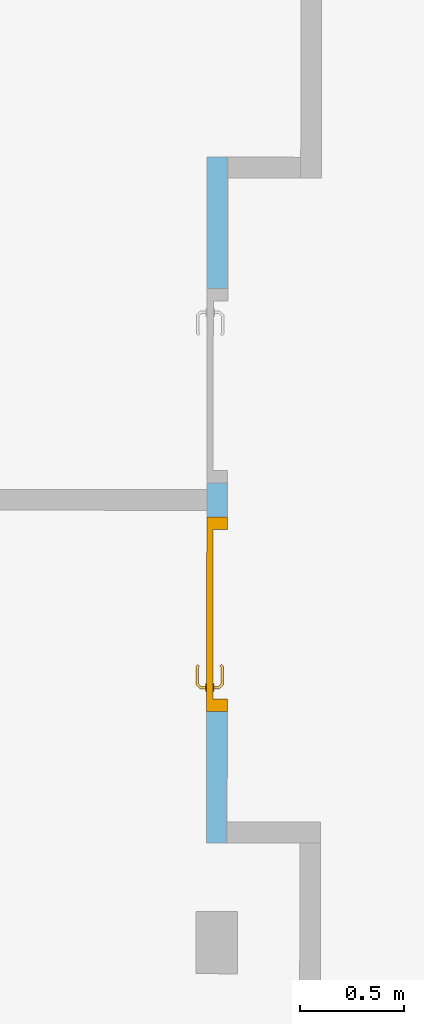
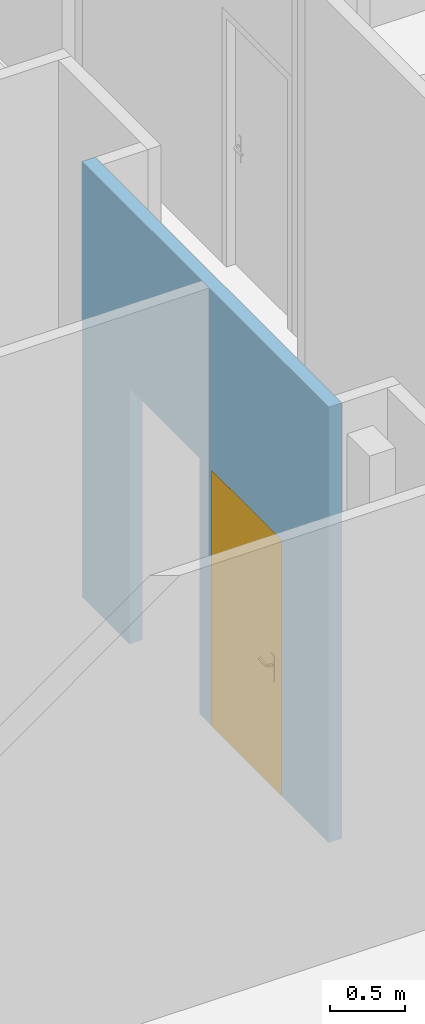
# One storey, part 84 of 101: 1 door, 2 openings, plus 1 element that does not belong to this part.
"""IFC2X3 building model written with IfcOpenShell, lengths in metres."""

import ifcopenshell
import ifcopenshell.guid

model = None  # the IFC model being written
_history = None  # IfcOwnerHistory: only IFC2X3 demands one
_inside = {}  # id of a spatial element -> (the spatial element, [elements in it])
_under = {}  # id of a project, library or spatial element -> (it, [spatial elements below it])
_declared = {}  # id of a project -> (the project, [libraries it declares])
_typed = {}  # id of a type object -> (the type object, [elements of that type])
_made_of = {}  # id of a material, layer set ... -> (it, [elements and type objects made of it])


def new_model(schema):
    """Start an empty IFC model of exactly this schema.

    Asked for "IFC4X3", IfcOpenShell would pick the latest addendum, in which some entities
    have other attributes; the version numbers below select the first issue.
    IFC2X3 requires an IfcOwnerHistory on every rooted entity: one is made here for all.
    """
    global model, _history
    if schema == "IFC4X3":
        model = ifcopenshell.file(schema_version=(4, 3, 0, 0))
    else:
        model = ifcopenshell.file(schema=schema)
    _inside.clear()
    _under.clear()
    _declared.clear()
    _typed.clear()
    _made_of.clear()
    _history = None
    if model.schema == "IFC2X3":
        org = make("IfcOrganization", Name="unknown")
        user = make(
            "IfcPersonAndOrganization",
            ThePerson=make("IfcPerson", FamilyName="unknown"),
            TheOrganization=org,
        )
        app = make(
            "IfcApplication",
            ApplicationDeveloper=org,
            Version="unknown",
            ApplicationFullName="unknown",
            ApplicationIdentifier="unknown",
        )
        _history = make(
            "IfcOwnerHistory",
            OwningUser=user,
            OwningApplication=app,
            ChangeAction="ADDED",
            CreationDate=0,
        )
    return model


def make(cls, **values):
    """One entity of the class cls with the attributes given. An attribute that is None is left unset."""
    return model.create_entity(
        cls, **{name: value for name, value in values.items() if value is not None}
    )


def entity(cls, *values):
    """Any entity or typed value of the class cls, its attributes in the order of the schema. None: left unset."""
    e = model.create_entity(cls)
    for i, value in enumerate(values):
        if value is not None:
            e[i] = value
    return e


def rooted(cls, **values):
    """An entity with a GlobalId (a new one), such as an element, a storey or a relation."""
    return make(cls, GlobalId=ifcopenshell.guid.new(), OwnerHistory=_history, **values)


def si_unit(unit_type, name, prefix=None):
    """IfcSIUnit, for example si_unit("LENGTHUNIT", "METRE", prefix="MILLI")."""
    return make("IfcSIUnit", UnitType=unit_type, Prefix=prefix, Name=name)


def converted_unit(unit_type, name, factor, base, dimensions=None, offset=None):
    """IfcConversionBasedUnit, such as the inch: factor (a typed value) times the base unit."""
    return make(
        "IfcConversionBasedUnit"
        if offset is None
        else "IfcConversionBasedUnitWithOffset",
        ConversionOffset=offset,
        Dimensions=None
        if dimensions is None
        else entity("IfcDimensionalExponents", *dimensions),
        UnitType=unit_type,
        Name=name,
        ConversionFactor=make(
            "IfcMeasureWithUnit", ValueComponent=factor, UnitComponent=base
        ),
    )


def derived_unit(unit_type, elements):
    """IfcDerivedUnit: a product of units, each with its exponent."""
    return make(
        "IfcDerivedUnit",
        Elements=[
            make("IfcDerivedUnitElement", Unit=unit, Exponent=power)
            for unit, power in elements
        ],
        UnitType=unit_type,
    )


def assignment(units):
    """IfcUnitAssignment: the units of a project."""
    return None if units is None else make("IfcUnitAssignment", Units=units)


def point(xyz):
    """IfcCartesianPoint."""
    return None if xyz is None else make("IfcCartesianPoint", Coordinates=xyz)


def direction(xyz):
    """IfcDirection."""
    return None if xyz is None else make("IfcDirection", DirectionRatios=xyz)


def frame(location, z_axis=None, x_axis=None):
    """IfcAxis2Placement3D, a coordinate frame: its origin and axes. An axis left out is left unset."""
    return make(
        "IfcAxis2Placement3D",
        Location=point(location),
        Axis=direction(z_axis),
        RefDirection=direction(x_axis),
    )


def frame_2d(location, x_axis=None):
    """IfcAxis2Placement2D, a coordinate frame in the plane: its origin and x axis."""
    return make(
        "IfcAxis2Placement2D", Location=point(location), RefDirection=direction(x_axis)
    )


def origin():
    """The frame at (0, 0, 0) with its axes left unset."""
    return frame((0.0, 0.0, 0.0))


def place(relative_to, where):
    """IfcLocalPlacement: puts the frame where relative to a parent placement (None: the world)."""
    return make(
        "IfcLocalPlacement", PlacementRelTo=relative_to, RelativePlacement=where
    )


def context(
    kind, dimensions, precision=None, world=None, true_north=None, identifier=None
):
    """IfcGeometricRepresentationContext, for example the 3D "Model" context."""
    return make(
        "IfcGeometricRepresentationContext",
        ContextIdentifier=identifier,
        ContextType=kind,
        CoordinateSpaceDimension=dimensions,
        Precision=precision,
        WorldCoordinateSystem=world,
        TrueNorth=true_north,
    )


def subcontext(parent, identifier, kind, view, scale=None):
    """IfcGeometricRepresentationSubContext, for example "Body" below "Model"."""
    return make(
        "IfcGeometricRepresentationSubContext",
        ContextIdentifier=identifier,
        ContextType=kind,
        ParentContext=parent,
        TargetScale=scale,
        TargetView=view,
    )


def project(units=None, contexts=None):
    """IfcProject with its units and contexts."""
    return rooted(
        "IfcProject",
        Name="project",
        RepresentationContexts=contexts,
        UnitsInContext=assignment(units),
    )


def spatial(cls, under=None, at=None, **own):
    """A site, building, storey or space (cls), placed at a placement, below another one or the project."""
    s = rooted(cls, ObjectPlacement=at, **own)
    if under is not None:
        _under.setdefault(under.id(), (under, []))[1].append(s)
    return s


def profile(cls, at=None, kind="AREA", **sizes):
    """A parametric profile (cls). Its sizes go by their IFC names, for example OverallWidth=200.0."""
    return make(cls, ProfileType=kind, Position=at, **sizes)


def rectangle(**sizes):
    """IfcRectangleProfileDef."""
    return profile("IfcRectangleProfileDef", **sizes)


def extrude(swept, where, along, depth):
    """IfcExtrudedAreaSolid: the profile swept, set in the frame where, extruded along a direction by depth."""
    return make(
        "IfcExtrudedAreaSolid",
        SweptArea=swept,
        Position=where,
        ExtrudedDirection=direction(along),
        Depth=depth,
    )


def faces_of(points, faces, orient=None, outer=None):
    """IfcFace entities. A face is a list of loops; a loop is a list of indices into points, from 0.

    orient and outer hold one flag for each loop. By default every Orientation is true, the
    first loop of a face is its IfcFaceOuterBound and the others are IfcFaceBound.
    """
    made = []
    for i, loops in enumerate(faces):
        bounds = []
        for j, loop in enumerate(loops):
            is_outer = j == 0 if outer is None else outer[i][j]
            bounds.append(
                make(
                    "IfcFaceOuterBound" if is_outer else "IfcFaceBound",
                    Bound=make("IfcPolyLoop", Polygon=[points[k] for k in loop]),
                    Orientation=True if orient is None else orient[i][j],
                )
            )
        made.append(make("IfcFace", Bounds=bounds))
    return made


def faceted_brep(points, faces, orient=None, outer=None, voids=None):
    """IfcFacetedBrep: a solid bounded by flat faces; with voids (closed shells), ...WithVoids."""
    shared = [point(p) for p in points]
    hull = make("IfcClosedShell", CfsFaces=faces_of(shared, faces, orient, outer))
    if voids is None:
        return make("IfcFacetedBrep", Outer=hull)
    return make(
        "IfcFacetedBrepWithVoids",
        Outer=hull,
        Voids=[
            make(cls, CfsFaces=faces_of(shared, fs, o, b)) for cls, fs, o, b in voids
        ],
    )


def shape(context_of_items, identifier, shape_type, items):
    """IfcShapeRepresentation: the items that make up one representation, for example the "Body"."""
    return make(
        "IfcShapeRepresentation",
        ContextOfItems=context_of_items,
        RepresentationIdentifier=identifier,
        RepresentationType=shape_type,
        Items=items,
    )


def source(mapping_origin, context_of_items, identifier, shape_type, items):
    """IfcRepresentationMap: a shape defined once, which mapped items show again and again."""
    return make(
        "IfcRepresentationMap",
        MappingOrigin=mapping_origin,
        MappedRepresentation=shape(context_of_items, identifier, shape_type, items),
    )


def transform(
    local_origin,
    x_axis=None,
    y_axis=None,
    z_axis=None,
    scale=None,
    scale2=None,
    scale3=None,
    uniform=True,
):
    """IfcCartesianTransformationOperator3D, or its non-uniform kind. x_axis, y_axis, z_axis: its Axis1, 2, 3."""
    if uniform:
        return make(
            "IfcCartesianTransformationOperator3D",
            Axis1=direction(x_axis),
            Axis2=direction(y_axis),
            LocalOrigin=point(local_origin),
            Scale=scale,
            Axis3=direction(z_axis),
        )
    return make(
        "IfcCartesianTransformationOperator3DnonUniform",
        Axis1=direction(x_axis),
        Axis2=direction(y_axis),
        LocalOrigin=point(local_origin),
        Scale=scale,
        Axis3=direction(z_axis),
        Scale2=scale2,
        Scale3=scale3,
    )


def mapped(mapping_source, mapping_target):
    """IfcMappedItem: shows the shape of a source again, moved by a transform."""
    return make(
        "IfcMappedItem", MappingSource=mapping_source, MappingTarget=mapping_target
    )


def material(Name=None, Category=None):
    """IfcMaterial."""
    return make("IfcMaterial", Name=Name, Category=Category)


def material_list(materials):
    """IfcMaterialList."""
    return make("IfcMaterialList", Materials=materials)


def layer(
    of_material, thickness, ventilated=None, Name=None, Category=None, Priority=None
):
    """IfcMaterialLayer: one layer of a wall or slab, of a material (None: an air gap)."""
    return make(
        "IfcMaterialLayer",
        Material=of_material,
        LayerThickness=thickness,
        IsVentilated=ventilated,
        Name=Name,
        Category=Category,
        Priority=Priority,
    )


def layer_set(layers, Name=None):
    """IfcMaterialLayerSet."""
    return make("IfcMaterialLayerSet", MaterialLayers=layers, LayerSetName=Name)


def layer_usage(for_layer_set, set_direction, sense, offset, extent=None):
    """IfcMaterialLayerSetUsage: how a layer set lies in its element."""
    return make(
        "IfcMaterialLayerSetUsage",
        ForLayerSet=for_layer_set,
        LayerSetDirection=set_direction,
        DirectionSense=sense,
        OffsetFromReferenceLine=offset,
        ReferenceExtent=extent,
    )


def made_of(thing, what):
    """Note that an element or type object is made of a material, layer set ...; save() writes the relation."""
    if what is not None:
        _made_of.setdefault(what.id(), (what, []))[1].append(thing)
    return thing


def type_object(cls, material=None, **own):
    """A type object (cls), such as IfcWallType, which elements share."""
    return made_of(rooted(cls, **own), material)


def type_shapes(of_type, sources):
    """Give a type object the sources (RepresentationMaps) that its elements show as mapped items."""
    of_type.RepresentationMaps = sources


def element(
    cls,
    number,
    at=None,
    inside=None,
    cuts=None,
    type_object=None,
    material=None,
    context=None,
    identifier="Body",
    shape_type=None,
    held_by="IfcProductDefinitionShape",
    body=None,
    shapes=None,
    **own,
):
    """One element of the class cls, such as IfcWall. Its Tag is "e" and its number.

    at: its placement. inside: the storey or other place that contains it. cuts: it is an
    opening in that element (IfcRelVoidsElement). A single representation is given by context,
    identifier, shape_type and body (its items); several are given by shapes. held_by: the class
    of the entity that holds the representations. save() writes the other relations.
    """
    e = rooted(cls, Tag="e%d" % number, ObjectPlacement=at, **own)
    if body is not None:
        shapes = [shape(context, identifier, shape_type, body)]
    if shapes is not None:
        e.Representation = make(held_by, Representations=shapes)
    if inside is not None:
        _inside.setdefault(inside.id(), (inside, []))[1].append(e)
    if cuts is not None:
        rooted(
            "IfcRelVoidsElement", RelatingBuildingElement=cuts, RelatedOpeningElement=e
        )
    if type_object is not None:
        _typed.setdefault(type_object.id(), (type_object, []))[1].append(e)
    return made_of(e, material)


def fill(opening, filler):
    """IfcRelFillsElement: the door or window that sits in an opening."""
    return rooted(
        "IfcRelFillsElement",
        RelatingOpeningElement=opening,
        RelatedBuildingElement=filler,
    )


def aggregate(whole, parts):
    """IfcRelAggregates: a whole, such as a stair, and the parts it consists of."""
    return rooted("IfcRelAggregates", RelatingObject=whole, RelatedObjects=parts)


def save(model, path):
    """Write the relations noted so far, then the file.

    IfcRelAggregates (storeys below a building ...), IfcRelContainedInSpatialStructure (elements
    in a storey), IfcRelDefinesByType, IfcRelAssociatesMaterial and IfcRelDeclares: one each for
    every whole, place, type object, material and project.
    """
    for whole, parts in _under.values():
        aggregate(whole, parts)
    for where, things in _inside.values():
        rooted(
            "IfcRelContainedInSpatialStructure",
            RelatedElements=things,
            RelatingStructure=where,
        )
    for kind, things in _typed.values():
        rooted("IfcRelDefinesByType", RelatedObjects=things, RelatingType=kind)
    for what, things in _made_of.values():
        rooted("IfcRelAssociatesMaterial", RelatedObjects=things, RelatingMaterial=what)
    for by, libraries in _declared.values():
        rooted("IfcRelDeclares", RelatingContext=by, RelatedDefinitions=libraries)
    model.write(path)


model = new_model("IFC2X3")

# Units and contexts
model_context = context("Model", 3, precision=1e-05, world=origin(), true_north=direction((6.123233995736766e-17, 1.0)))
body_context = subcontext(model_context, "Body", "Model", "MODEL_VIEW")
ifc_project = project(units=[si_unit("LENGTHUNIT", "METRE"), si_unit("AREAUNIT", "SQUARE_METRE"), converted_unit("PLANEANGLEUNIT", "DEGREE", entity("IfcPlaneAngleMeasure", 0.017453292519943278), si_unit("PLANEANGLEUNIT", "RADIAN"), dimensions=[0, 0, 0, 0, 0, 0, 0]), derived_unit("THERMALTRANSMITTANCEUNIT", [(si_unit("MASSUNIT", "GRAM", prefix="KILO"), 1), (si_unit("THERMODYNAMICTEMPERATUREUNIT", "KELVIN"), -1), (si_unit("TIMEUNIT", "SECOND"), -3)])], contexts=[model_context])

# Site, building, storey
site_placement = place(None, frame((1253.6752467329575, 2072.143113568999, 91.49999999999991), z_axis=(0.0, 0.0, 1.0), x_axis=(0.7237211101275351, 0.6900925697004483, 0.0)))
site = spatial("IfcSite", under=ifc_project, at=site_placement, Name="Surface", CompositionType="ELEMENT")
building_placement = place(site_placement, origin())
building = spatial("IfcBuilding", under=site, at=building_placement, CompositionType="ELEMENT")
storey_placement = place(building_placement, origin())
storey = spatial("IfcBuildingStorey", under=building, at=storey_placement, Name="0- Rdc", CompositionType="ELEMENT", Elevation=-5.764692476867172e-13)

# Wall, openings, door
ifc_material_1 = material(Name="OMD_Béton blanc")
ifc_layer = layer(ifc_material_1, 0.1)
ifc_layer_set = layer_set([ifc_layer], Name="Mur de base:MUR 10")
ifc_layer_usage = layer_usage(ifc_layer_set, "AXIS2", "NEGATIVE", 0.05)
wall_type = type_object("IfcWallType", Name="Mur de base:MUR 10", PredefinedType="STANDARD", material=ifc_layer_set)
wall_placement = place(storey_placement, frame((188.0728854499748, -8.398407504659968, 0.0), z_axis=(0.0, 0.0, 1.0), x_axis=(-0.6909838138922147, -0.7228702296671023, 0.0)))
wall = element("IfcWallStandardCase", 1, at=wall_placement, inside=storey, type_object=wall_type, material=ifc_layer_usage, Name="Mur de base:MUR 10", ObjectType="Mur de base:MUR 10", context=body_context, shape_type="SweptSolid", body=[
    extrude(rectangle(XDim=3.3000000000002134, YDim=0.10000000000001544, at=frame_2d((1.6500000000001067, 3.4867941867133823e-15), x_axis=(-1.0, 0.0))), origin(), (0.0, 0.0, 1.0), 3.5499999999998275),
])
opening_1_placement = place(wall_placement, frame((1.5675000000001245, 0.05000000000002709, 0.0)))
element("IfcOpeningElement", 2, at=opening_1_placement, cuts=wall, Name="OMD_Porte 1V tunnel:80x204:1", ObjectType="Opening", context=body_context, shape_type="SweptSolid", body=[
    extrude(rectangle(XDim=2.0850000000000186, YDim=0.9349999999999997, at=frame_2d((1.0425000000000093, 0.46749999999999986), x_axis=(1.0, 0.0))), frame((0.0, 0.0, 0.0), z_axis=(0.0, -1.0, 0.0), x_axis=(0.0, 0.0, 1.0)), (0.0, 0.0, 1.0), 0.09999999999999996),
])
opening_2_placement = place(wall_placement, frame((2.6675000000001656, 0.050000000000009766, 0.0)))
opening_2 = element("IfcOpeningElement", 3, at=opening_2_placement, cuts=wall, Name="OMD_Porte 1V tunnel:80x204:1", ObjectType="Opening", context=body_context, shape_type="SweptSolid", body=[
    extrude(rectangle(XDim=2.0850000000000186, YDim=0.9349999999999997, at=frame_2d((1.0425000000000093, 0.46750000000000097), x_axis=(1.0, 0.0))), frame((0.0, 0.0, 0.0), z_axis=(0.0, -1.0, 0.0), x_axis=(0.0, 0.0, 1.0)), (0.0, 0.0, 1.0), 0.09999999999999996),
])
ifc_material_2 = material(Name="Porte - Poignée")
ifc_material_3 = material(Name="OMD_Peinture mur")
ifc_material_4 = material(Name="OMD_Bois")
ifc_material_list = material_list([ifc_material_2, ifc_material_3, ifc_material_4])
door_style = type_object("IfcDoorStyle", Name="OMD_Porte 1V tunnel:80x204", ConstructionType="NOTDEFINED", OperationType="NOTDEFINED", ParameterTakesPrecedence=False, Sizeable=False, material=ifc_material_list)
shared_shape = source(origin(), body_context, "Body", "Brep", [
    faceted_brep([(0.8220252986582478, 0.03500000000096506, 1.0077804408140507), (0.8179747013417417, 0.03500000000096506, 1.007780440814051), (0.8139999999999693, 0.03500000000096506, 1.00699999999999), (0.8139999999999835, 0.03500000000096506, 0.9930000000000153), (0.8179747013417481, 0.03500000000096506, 0.9922195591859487), (0.8220252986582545, 0.03500000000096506, 0.9922195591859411), (0.8260000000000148, 0.03500000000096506, 0.9929999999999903), (0.826000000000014, 0.03500000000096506, 1.006999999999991), (0.8139999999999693, 0.05748520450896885, 1.00699999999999), (0.8139999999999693, 0.05748520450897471, 0.9930000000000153), (0.8179747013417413, 0.059131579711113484, 1.007780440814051), (0.8220252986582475, 0.060809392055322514, 1.0077804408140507), (0.8058389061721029, 0.07699578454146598, 1.0077804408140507), (0.8041610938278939, 0.07294518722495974, 1.007780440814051), (0.7207931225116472, 0.07294518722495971, 1.0077804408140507), (0.7191153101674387, 0.07699578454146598, 1.0077804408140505), (0.7114510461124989, 0.06933152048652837, 1.0077804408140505), (0.714315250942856, 0.0664673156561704, 1.0077804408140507), (0.8260000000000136, 0.062455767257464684, 1.006999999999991), (0.8260000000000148, 0.062455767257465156, 0.9929999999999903), (0.8220252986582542, 0.06080939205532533, 0.9922195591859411), (0.8179747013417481, 0.05913157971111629, 0.9922195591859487), (0.8041610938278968, 0.07294518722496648, 0.9922195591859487), (0.8058389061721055, 0.07699578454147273, 0.9922195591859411), (0.7191153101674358, 0.07699578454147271, 0.9922195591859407), (0.7207931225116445, 0.07294518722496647, 0.9922195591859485), (0.7143152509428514, 0.06646731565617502, 0.9922195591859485), (0.7114510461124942, 0.06933152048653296, 0.9922195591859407), (0.8025147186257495, 0.06897048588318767, 1.00699999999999), (0.8025147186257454, 0.06897048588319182, 0.9930000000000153), (0.8074852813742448, 0.08097048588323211, 1.006999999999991), (0.8074852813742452, 0.08097048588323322, 0.9929999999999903), (0.7624771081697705, 0.06897048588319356, 1.0069999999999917), (0.7224394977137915, 0.06897048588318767, 1.0069999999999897), (0.7224394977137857, 0.0689704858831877, 0.9930000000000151), (0.7624771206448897, 0.06897048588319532, 0.9930000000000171), (0.7624771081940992, 0.07512492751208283, 1.0078781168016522), (0.7573994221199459, 0.08097048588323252, 1.0069999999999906), (0.7174689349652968, 0.08097048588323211, 1.0069999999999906), (0.7675547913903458, 0.08097048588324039, 0.9929999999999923), (0.7174689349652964, 0.08097048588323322, 0.99299999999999), (0.762477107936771, 0.07512492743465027, 0.9921218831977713), (0.7086405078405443, 0.07214205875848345, 1.0069999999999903), (0.7086405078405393, 0.07214205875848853, 0.9929999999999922), (0.7171257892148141, 0.06365677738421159, 0.9930000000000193), (0.71712578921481, 0.06365677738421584, 1.0069999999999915)], [[[0, 1, 2, 3, 4, 5, 6, 7]], [[8, 9, 3, 2]], [[1, 10, 8, 2]], [[1, 0, 11, 12, 13, 10]], [[14, 15, 16, 17]], [[7, 18, 11, 0]], [[18, 7, 6, 19]], [[6, 5, 20, 19]], [[5, 4, 21, 22, 23, 20]], [[24, 25, 26, 27]], [[4, 3, 9, 21]], [[28, 29, 9, 8]], [[8, 10, 13, 28]], [[18, 30, 12, 11]], [[31, 30, 18, 19]], [[19, 20, 23, 31]], [[21, 9, 29, 22]], [[29, 28, 32, 33, 34, 35]], [[36, 32, 13]], [[37, 38, 15]], [[37, 12, 30]], [[36, 12, 37]], [[14, 32, 36]], [[36, 15, 14]], [[28, 13, 32]], [[32, 14, 33]], [[12, 36, 13]], [[15, 36, 37]], [[30, 31, 39, 40, 38, 37]], [[23, 41, 39]], [[24, 39, 41]], [[39, 31, 23]], [[39, 24, 40]], [[22, 35, 41]], [[41, 23, 22]], [[41, 35, 25]], [[35, 22, 29]], [[34, 25, 35]], [[24, 41, 25]], [[17, 16, 42, 43, 27, 26, 44, 45]], [[45, 44, 34, 33]], [[33, 14, 17, 45]], [[15, 38, 42, 16]], [[43, 42, 38, 40]], [[24, 27, 43, 40]], [[34, 44, 26, 25]]]),
    faceted_brep([(0.817974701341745, -0.004999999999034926, 1.007780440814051), (0.8220252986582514, -0.004999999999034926, 1.0077804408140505), (0.8260000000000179, -0.004999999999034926, 1.0069999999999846), (0.8260000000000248, -0.004999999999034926, 0.9929999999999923), (0.8220252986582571, -0.004999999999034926, 0.992219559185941), (0.817974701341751, -0.004999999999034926, 0.9922195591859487), (0.8139999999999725, -0.004999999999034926, 0.9930000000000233), (0.8139999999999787, -0.004999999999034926, 1.006999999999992), (0.8220252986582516, -0.03100457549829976, 1.0077804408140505), (0.8260000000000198, -0.03265095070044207, 1.0069999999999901), (0.8179747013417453, -0.02932676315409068, 1.007780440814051), (0.8042986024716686, -0.04300286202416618, 1.007780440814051), (0.8059764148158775, -0.04705345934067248, 1.0077804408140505), (0.7191424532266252, -0.04705345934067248, 1.0077804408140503), (0.7208202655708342, -0.04300286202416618, 1.0077804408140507), (0.714342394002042, -0.03652499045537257, 1.0077804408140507), (0.7114781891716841, -0.039389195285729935, 1.0077804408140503), (0.813999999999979, -0.02768038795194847, 1.006999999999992), (0.8139999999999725, -0.02768038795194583, 0.9930000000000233), (0.817974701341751, -0.029326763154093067, 0.9922195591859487), (0.8220252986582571, -0.031004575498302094, 0.992219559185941), (0.8059764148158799, -0.0470534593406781, 0.992219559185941), (0.804298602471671, -0.04300286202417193, 0.9922195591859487), (0.7208202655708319, -0.04300286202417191, 0.9922195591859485), (0.7191424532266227, -0.047053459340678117, 0.9922195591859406), (0.71147818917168, -0.03938919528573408, 0.9922195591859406), (0.7143423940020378, -0.036524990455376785, 0.9922195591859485), (0.8260000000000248, -0.032650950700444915, 0.9929999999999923), (0.807622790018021, -0.051028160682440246, 1.0069999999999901), (0.8026522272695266, -0.03902816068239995, 1.006999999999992), (0.8026522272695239, -0.03902816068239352, 0.9930000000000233), (0.8076227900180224, -0.05102816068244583, 0.9929999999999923), (0.762559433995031, -0.0451828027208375, 1.0078781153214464), (0.7676923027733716, -0.05102816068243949, 1.0069999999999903), (0.7174960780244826, -0.05102816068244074, 1.00699999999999), (0.7625594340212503, -0.03902816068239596, 1.0069999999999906), (0.7224666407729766, -0.039028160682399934, 1.0069999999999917), (0.7625594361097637, -0.03902816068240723, 0.9930000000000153), (0.7224666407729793, -0.03902816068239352, 0.9930000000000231), (0.7625594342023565, -0.04518280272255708, 0.9921218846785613), (0.7574265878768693, -0.051028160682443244, 0.9929999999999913), (0.7174960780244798, -0.05102816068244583, 0.9929999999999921), (0.7171529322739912, -0.033714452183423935, 0.9930000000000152), (0.7086676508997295, -0.04219973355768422, 0.9929999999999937), (0.7086676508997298, -0.04219973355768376, 1.0069999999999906), (0.717152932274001, -0.03371445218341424, 1.0069999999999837)], [[[0, 1, 2, 3, 4, 5, 6, 7]], [[2, 1, 8, 9]], [[1, 0, 10, 11, 12, 8]], [[13, 14, 15, 16]], [[0, 7, 17, 10]], [[18, 17, 7, 6]], [[5, 19, 18, 6]], [[5, 4, 20, 21, 22, 19]], [[23, 24, 25, 26]], [[3, 27, 20, 4]], [[9, 27, 3, 2]], [[9, 8, 12, 28]], [[10, 17, 29, 11]], [[30, 29, 17, 18]], [[18, 19, 22, 30]], [[20, 27, 31, 21]], [[28, 31, 27, 9]], [[12, 32, 33]], [[13, 33, 32]], [[33, 28, 12]], [[33, 13, 34]], [[11, 35, 32]], [[32, 12, 11]], [[32, 35, 14]], [[35, 11, 29]], [[36, 14, 35]], [[13, 32, 14]], [[29, 30, 37, 38, 36, 35]], [[39, 37, 22]], [[40, 41, 24]], [[40, 21, 31]], [[39, 21, 40]], [[23, 37, 39]], [[39, 24, 23]], [[30, 22, 37]], [[37, 23, 38]], [[21, 39, 22]], [[24, 39, 40]], [[31, 28, 33, 34, 41, 40]], [[42, 26, 25, 43, 44, 16, 15, 45]], [[13, 16, 44, 34]], [[36, 45, 15, 14]], [[42, 45, 36, 38]], [[38, 23, 26, 42]], [[24, 41, 43, 25]], [[44, 43, 41, 34]]]),
    faceted_brep([(0.8199999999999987, 0.030000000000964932, 0.8646410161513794), (0.8303527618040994, 0.03000000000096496, 0.866003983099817), (0.8399999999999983, 0.030000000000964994, 0.8700000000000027), (0.8399999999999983, 0.030000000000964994, 1.0800000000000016), (0.8303527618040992, 0.03000000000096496, 1.0839960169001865), (0.8199999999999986, 0.030000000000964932, 1.0853589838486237), (0.809647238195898, 0.030000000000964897, 1.0839960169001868), (0.7999999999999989, 0.030000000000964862, 1.0800000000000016), (0.7999999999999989, 0.030000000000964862, 0.8700000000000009), (0.8096472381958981, 0.030000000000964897, 0.8660039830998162), (0.8199999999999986, 0.03500000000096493, 1.0853589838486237), (0.8303527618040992, 0.03500000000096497, 1.0839960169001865), (0.8399999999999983, 0.035000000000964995, 1.0800000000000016), (0.8399999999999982, 0.035000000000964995, 0.8700000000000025), (0.8303527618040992, 0.03500000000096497, 0.866003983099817), (0.8199999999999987, 0.03500000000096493, 0.8646410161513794), (0.8096472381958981, 0.0350000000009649, 0.8660039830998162), (0.7999999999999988, 0.03500000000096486, 0.8700000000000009), (0.7999999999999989, 0.03500000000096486, 1.0800000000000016), (0.809647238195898, 0.0350000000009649, 1.0839960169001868)], [[[0, 1, 2, 3, 4, 5, 6, 7, 8, 9]], [[10, 11, 12, 13, 14, 15, 16, 17, 18, 19]], [[6, 19, 18, 7]], [[5, 10, 19, 6]], [[4, 11, 10, 5]], [[4, 3, 12, 11]], [[12, 3, 2, 13]], [[1, 14, 13, 2]], [[0, 15, 14, 1]], [[9, 16, 15, 0]], [[9, 8, 17, 16]], [[17, 8, 7, 18]]]),
    faceted_brep([(0.819999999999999, -0.004999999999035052, 0.8646410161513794), (0.8303527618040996, -0.0049999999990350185, 0.8660039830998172), (0.8399999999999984, -0.004999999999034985, 0.8700000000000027), (0.8399999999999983, -0.004999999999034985, 1.0800000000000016), (0.8303527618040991, -0.0049999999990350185, 1.0839960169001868), (0.8199999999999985, -0.004999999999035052, 1.0853589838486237), (0.8096472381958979, -0.004999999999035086, 1.0839960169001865), (0.7999999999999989, -0.004999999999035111, 1.0800000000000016), (0.7999999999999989, -0.004999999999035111, 0.8700000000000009), (0.8096472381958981, -0.004999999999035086, 0.8660039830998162), (0.8399999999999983, 0.0, 1.0800000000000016), (0.8399999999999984, 0.0, 0.8700000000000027), (0.8303527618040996, 0.0, 0.8660039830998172), (0.819999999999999, 0.0, 0.8646410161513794), (0.8096472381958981, 0.0, 0.8660039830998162), (0.7999999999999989, 0.0, 0.8700000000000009), (0.7999999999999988, 0.0, 1.0800000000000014), (0.8096472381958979, 0.0, 1.0839960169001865), (0.8199999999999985, 0.0, 1.0853589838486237), (0.8303527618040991, 0.0, 1.0839960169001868)], [[[0, 1, 2, 3, 4, 5, 6, 7, 8, 9]], [[10, 11, 12, 13, 14, 15, 16, 17, 18, 19]], [[1, 12, 11, 2]], [[0, 13, 12, 1]], [[9, 14, 13, 0]], [[9, 8, 15, 14]], [[15, 8, 7, 16]], [[6, 17, 16, 7]], [[5, 18, 17, 6]], [[4, 19, 18, 5]], [[4, 3, 10, 19]], [[10, 3, 2, 11]]]),
    faceted_brep([(0.89, 0.030000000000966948, 0.0), (0.89, 0.0, 0.0), (0.04500000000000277, 0.0, 0.0), (0.04500000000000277, 0.030000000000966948, 0.0), (0.89, 0.030000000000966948, 2.04), (0.89, 0.0, 2.04), (0.04500000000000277, 0.0, 2.04), (0.04500000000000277, 0.030000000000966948, 2.04)], [[[0, 1, 2, 3]], [[4, 5, 1, 0]], [[5, 6, 2, 1]], [[6, 7, 3, 2]], [[7, 4, 0, 3]], [[4, 7, 6, 5]]]),
    faceted_brep([(0.9350000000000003, 0.0, 0.0), (0.89, 0.0, 0.0), (0.8900000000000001, 0.03000000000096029, 0.0), (0.8750000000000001, 0.030000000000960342, 0.0), (0.8750000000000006, 0.10000000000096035, 0.0), (0.9350000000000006, 0.10000000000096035, 0.0), (0.9350000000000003, 0.0, 2.085), (0.0, 0.0, 2.085), (0.0, 0.0, 0.0), (0.04500000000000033, 0.0, 0.0), (0.04500000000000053, 0.0, 2.04), (0.8899999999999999, 0.0, 2.0399999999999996), (0.89, 0.030000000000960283, 2.0399999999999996), (0.0450000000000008, 0.03000000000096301, 2.0399999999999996), (0.0450000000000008, 0.030000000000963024, 0.0), (0.060000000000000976, 0.030000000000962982, 0.0), (0.060000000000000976, 0.03000000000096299, 2.0249999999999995), (0.8750000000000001, 0.03000000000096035, 2.025), (0.8750000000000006, 0.10000000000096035, 2.0250000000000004), (0.060000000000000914, 0.10000000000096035, 2.025), (0.060000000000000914, 0.10000000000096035, 0.0), (0.0, 0.10000000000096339, 0.0), (0.0, 0.10000000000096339, 2.085), (0.9350000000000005, 0.10000000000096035, 2.085)], [[[0, 1, 2, 3, 4, 5]], [[1, 0, 6, 7, 8, 9, 10, 11]], [[2, 1, 11, 12]], [[3, 2, 12, 13, 14, 15, 16, 17]], [[4, 3, 17, 18]], [[5, 4, 18, 19, 20, 21, 22, 23]], [[0, 5, 23, 6]], [[7, 22, 21, 8]], [[8, 21, 20, 15, 14, 9]], [[13, 10, 9, 14]], [[19, 16, 15, 20]], [[12, 11, 10, 13]], [[18, 17, 16, 19]], [[6, 23, 22, 7]]]),
])
type_shapes(door_style, [shared_shape])
door_placement = place(opening_2_placement, frame((-0.9349999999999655, -0.10000000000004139, 0.0)))
door = element("IfcDoor", 4, at=door_placement, inside=storey, type_object=door_style, material=ifc_material_list, Name="OMD_Porte 1V tunnel:80x204", ObjectType="OMD_Porte 1V tunnel:80x204", OverallHeight=2.0850000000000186, OverallWidth=0.9350000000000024, context=body_context, shape_type="MappedRepresentation", body=[
    mapped(shared_shape, transform((0.0, 0.0, 0.0), scale=1.0)),
])
fill(opening_2, door)

save(model, "model.ifc")
